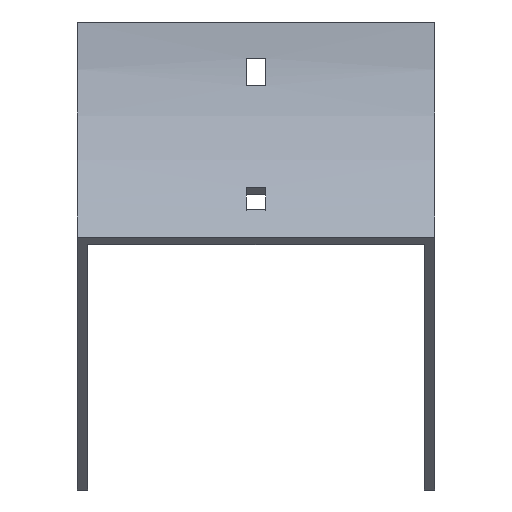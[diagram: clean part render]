
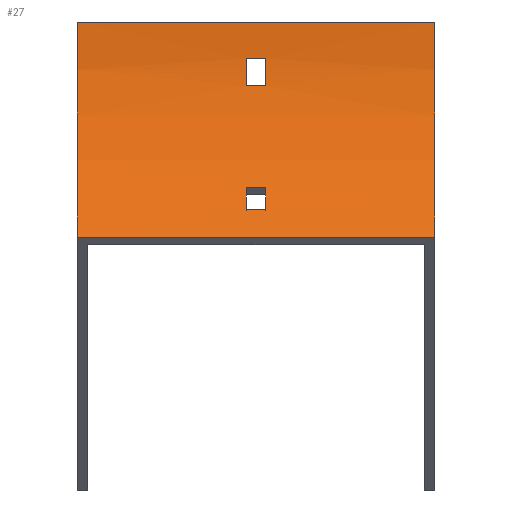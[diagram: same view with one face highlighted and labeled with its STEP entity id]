
A CAD part, front view. The second image highlights one B-rep face of the part: STEP entity #27.
In plain terms, the highlighted cylindrical face has radius 100 mm (diameter 200 mm), a partial arc.
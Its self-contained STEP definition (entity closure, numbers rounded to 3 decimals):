
#22 = CARTESIAN_POINT ( 'NONE',  ( 58.75, -21.315, -61.714 ) ) ;
#27 = ADVANCED_FACE ( 'NONE', ( #1151, #1667, #1394 ), #1262, .F. ) ;
#30 = ORIENTED_EDGE ( 'NONE', *, *, #291, .T. ) ;
#37 = CARTESIAN_POINT ( 'NONE',  ( 58.75, -29.289, -70.711 ) ) ;
#40 = VECTOR ( 'NONE', #1600, 1000. ) ;
#60 = AXIS2_PLACEMENT_3D ( 'NONE', #842, #1109, #300 ) ;
#91 = ORIENTED_EDGE ( 'NONE', *, *, #240, .F. ) ;
#97 = LINE ( 'NONE', #1018, #252 ) ;
#102 = DIRECTION ( 'NONE',  ( 1., 0., 0. ) ) ;
#122 = VECTOR ( 'NONE', #1106, 1000. ) ;
#139 = AXIS2_PLACEMENT_3D ( 'NONE', #1136, #1678, #1538 ) ;
#145 = VERTEX_POINT ( 'NONE', #1190 ) ;
#148 = DIRECTION ( 'NONE',  ( 1., 0., 0. ) ) ;
#163 = DIRECTION ( 'NONE',  ( 0., 0., 1. ) ) ;
#167 = DIRECTION ( 'NONE',  ( -1., 0., 0. ) ) ;
#192 = ORIENTED_EDGE ( 'NONE', *, *, #1417, .T. ) ;
#207 = CARTESIAN_POINT ( 'NONE',  ( 58.75, -29.289, -70.711 ) ) ;
#208 = CARTESIAN_POINT ( 'NONE',  ( -58.75, -29.289, -70.711 ) ) ;
#209 = CARTESIAN_POINT ( 'NONE',  ( 3.25, -2.23, -21. ) ) ;
#212 = AXIS2_PLACEMENT_3D ( 'NONE', #321, #972, #683 ) ;
#216 = EDGE_CURVE ( 'NONE', #431, #1365, #1298, .T. ) ;
#217 = EDGE_CURVE ( 'NONE', #1101, #296, #631, .T. ) ;
#221 = LINE ( 'NONE', #365, #327 ) ;
#240 = EDGE_CURVE ( 'NONE', #1105, #145, #1021, .T. ) ;
#248 = VECTOR ( 'NONE', #167, 1000. ) ;
#252 = VECTOR ( 'NONE', #1176, 1000. ) ;
#267 = AXIS2_PLACEMENT_3D ( 'NONE', #422, #953, #163 ) ;
#270 = EDGE_CURVE ( 'NONE', #1120, #760, #1486, .T. ) ;
#291 = EDGE_CURVE ( 'NONE', #973, #1101, #221, .T. ) ;
#296 = VERTEX_POINT ( 'NONE', #209 ) ;
#300 = DIRECTION ( 'NONE',  ( 0., 0., -1. ) ) ;
#321 = CARTESIAN_POINT ( 'NONE',  ( -3.25, -100., 0. ) ) ;
#327 = VECTOR ( 'NONE', #102, 1000. ) ;
#343 = CARTESIAN_POINT ( 'NONE',  ( 3.25, -21.315, -61.714 ) ) ;
#359 = CARTESIAN_POINT ( 'NONE',  ( 58.75, 0., 0. ) ) ;
#365 = CARTESIAN_POINT ( 'NONE',  ( 58.75, -0.723, -12. ) ) ;
#422 = CARTESIAN_POINT ( 'NONE',  ( 3.25, -100., 0. ) ) ;
#431 = VERTEX_POINT ( 'NONE', #1425 ) ;
#439 = CARTESIAN_POINT ( 'NONE',  ( -58.75, -100., 0. ) ) ;
#469 = AXIS2_PLACEMENT_3D ( 'NONE', #1146, #1042, #1445 ) ;
#501 = ORIENTED_EDGE ( 'NONE', *, *, #1090, .F. ) ;
#507 = EDGE_LOOP ( 'NONE', ( #853, #1679, #1372, #192 ) ) ;
#552 = CIRCLE ( 'NONE', #919, 100. ) ;
#561 = ORIENTED_EDGE ( 'NONE', *, *, #596, .F. ) ;
#596 = EDGE_CURVE ( 'NONE', #1365, #1105, #1589, .T. ) ;
#609 = VECTOR ( 'NONE', #713, 1000. ) ;
#611 = VERTEX_POINT ( 'NONE', #959 ) ;
#631 = CIRCLE ( 'NONE', #60, 100. ) ;
#678 = CARTESIAN_POINT ( 'NONE',  ( 58.75, 0., 0. ) ) ;
#683 = DIRECTION ( 'NONE',  ( 0., 0., -1. ) ) ;
#713 = DIRECTION ( 'NONE',  ( -1., 0., 0. ) ) ;
#731 = CARTESIAN_POINT ( 'NONE',  ( -58.75, 0., 0. ) ) ;
#760 = VERTEX_POINT ( 'NONE', #208 ) ;
#824 = CARTESIAN_POINT ( 'NONE',  ( -3.25, -100., 0. ) ) ;
#837 = CARTESIAN_POINT ( 'NONE',  ( -3.25, -0.723, -12. ) ) ;
#842 = CARTESIAN_POINT ( 'NONE',  ( 3.25, -100., 0. ) ) ;
#844 = ORIENTED_EDGE ( 'NONE', *, *, #217, .T. ) ;
#853 = ORIENTED_EDGE ( 'NONE', *, *, #270, .T. ) ;
#885 = LINE ( 'NONE', #207, #609 ) ;
#886 = EDGE_LOOP ( 'NONE', ( #1374, #501, #91, #561 ) ) ;
#919 = AXIS2_PLACEMENT_3D ( 'NONE', #824, #148, #1074 ) ;
#934 = LINE ( 'NONE', #678, #248 ) ;
#953 = DIRECTION ( 'NONE',  ( 1., 0., 0. ) ) ;
#959 = CARTESIAN_POINT ( 'NONE',  ( -3.25, -2.23, -21. ) ) ;
#972 = DIRECTION ( 'NONE',  ( -1., 0., 0. ) ) ;
#973 = VERTEX_POINT ( 'NONE', #837 ) ;
#979 = EDGE_CURVE ( 'NONE', #611, #973, #552, .T. ) ;
#1018 = CARTESIAN_POINT ( 'NONE',  ( 58.75, -2.23, -21. ) ) ;
#1021 = CIRCLE ( 'NONE', #267, 100. ) ;
#1042 = DIRECTION ( 'NONE',  ( -1., 0., 0. ) ) ;
#1074 = DIRECTION ( 'NONE',  ( 0., 0., 1. ) ) ;
#1089 = EDGE_CURVE ( 'NONE', #1420, #760, #885, .T. ) ;
#1090 = EDGE_CURVE ( 'NONE', #145, #431, #1527, .T. ) ;
#1101 = VERTEX_POINT ( 'NONE', #1116 ) ;
#1105 = VERTEX_POINT ( 'NONE', #343 ) ;
#1106 = DIRECTION ( 'NONE',  ( -1., 0., 0. ) ) ;
#1109 = DIRECTION ( 'NONE',  ( -1., 0., 0. ) ) ;
#1116 = CARTESIAN_POINT ( 'NONE',  ( 3.25, -0.723, -12. ) ) ;
#1120 = VERTEX_POINT ( 'NONE', #731 ) ;
#1136 = CARTESIAN_POINT ( 'NONE',  ( 58.75, -100., 0. ) ) ;
#1146 = CARTESIAN_POINT ( 'NONE',  ( 58.75, -100., 0. ) ) ;
#1151 = FACE_OUTER_BOUND ( 'NONE', #507, .T. ) ;
#1171 = VERTEX_POINT ( 'NONE', #359 ) ;
#1175 = ORIENTED_EDGE ( 'NONE', *, *, #979, .T. ) ;
#1176 = DIRECTION ( 'NONE',  ( -1., 0., 0. ) ) ;
#1190 = CARTESIAN_POINT ( 'NONE',  ( 3.25, -16.017, -54.285 ) ) ;
#1193 = EDGE_LOOP ( 'NONE', ( #1587, #1175, #30, #844 ) ) ;
#1205 = EDGE_CURVE ( 'NONE', #296, #611, #97, .T. ) ;
#1210 = DIRECTION ( 'NONE',  ( -1., 0., 0. ) ) ;
#1221 = CIRCLE ( 'NONE', #469, 100. ) ;
#1237 = DIRECTION ( 'NONE',  ( 0., 0., 1. ) ) ;
#1262 = CYLINDRICAL_SURFACE ( 'NONE', #139, 100. ) ;
#1281 = EDGE_CURVE ( 'NONE', #1171, #1420, #1221, .T. ) ;
#1298 = CIRCLE ( 'NONE', #212, 100. ) ;
#1339 = CARTESIAN_POINT ( 'NONE',  ( -3.25, -21.315, -61.714 ) ) ;
#1365 = VERTEX_POINT ( 'NONE', #1339 ) ;
#1372 = ORIENTED_EDGE ( 'NONE', *, *, #1281, .F. ) ;
#1374 = ORIENTED_EDGE ( 'NONE', *, *, #216, .F. ) ;
#1394 = FACE_BOUND ( 'NONE', #886, .T. ) ;
#1404 = AXIS2_PLACEMENT_3D ( 'NONE', #439, #1210, #1237 ) ;
#1417 = EDGE_CURVE ( 'NONE', #1171, #1120, #934, .T. ) ;
#1420 = VERTEX_POINT ( 'NONE', #37 ) ;
#1425 = CARTESIAN_POINT ( 'NONE',  ( -3.25, -16.017, -54.285 ) ) ;
#1445 = DIRECTION ( 'NONE',  ( 0., 0., 1. ) ) ;
#1486 = CIRCLE ( 'NONE', #1404, 100. ) ;
#1527 = LINE ( 'NONE', #1645, #122 ) ;
#1538 = DIRECTION ( 'NONE',  ( 0., 0., 1. ) ) ;
#1587 = ORIENTED_EDGE ( 'NONE', *, *, #1205, .T. ) ;
#1589 = LINE ( 'NONE', #22, #40 ) ;
#1600 = DIRECTION ( 'NONE',  ( 1., 0., 0. ) ) ;
#1645 = CARTESIAN_POINT ( 'NONE',  ( 58.75, -16.017, -54.285 ) ) ;
#1667 = FACE_BOUND ( 'NONE', #1193, .T. ) ;
#1678 = DIRECTION ( 'NONE',  ( -1., 0., 0. ) ) ;
#1679 = ORIENTED_EDGE ( 'NONE', *, *, #1089, .F. ) ;
